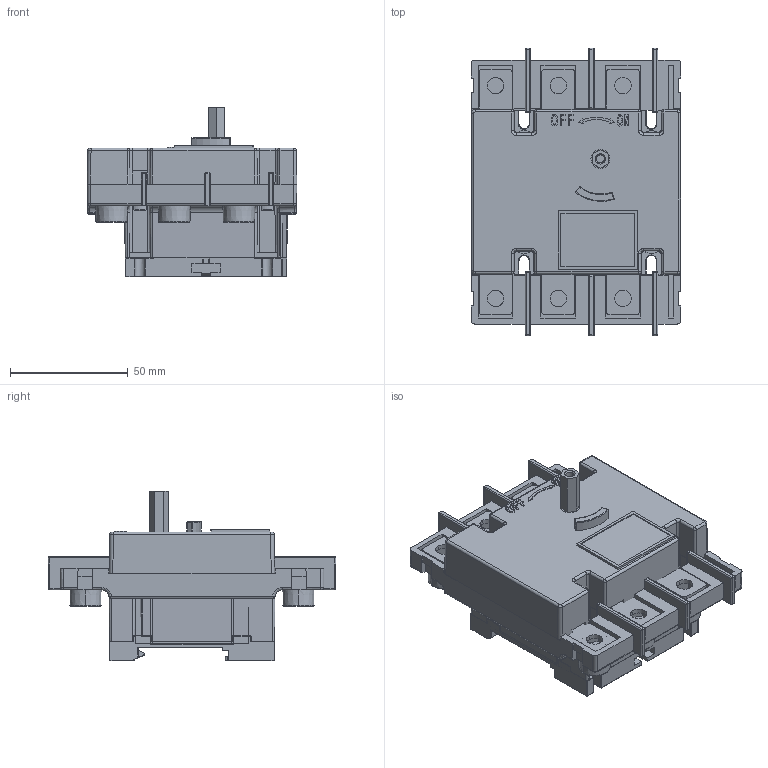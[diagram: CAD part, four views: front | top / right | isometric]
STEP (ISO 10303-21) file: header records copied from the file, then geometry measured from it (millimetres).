
FILE_DESCRIPTION((''),'2;1');
FILE_NAME('ASM0033_ASM','2020-10-07T',('zhuanghy'),(''),'PRO/ENGINEER BY PARAMETRIC TECHNOLOGY CORPORATION, 2008380','PRO/ENGINEER BY PARAMETRIC TECHNOLOGY CORPORATION, 2008380','');
FILE_SCHEMA(('CONFIG_CONTROL_DESIGN'));
Length unit declared in the file: millimetre
Products named in the file (10): PRT0081; PRT0082; ASM0037_ASM; PRT0083; PRT0084; PRT0085; ASM0036_ASM; ASM0035_ASM; ASM0034_ASM; ASM0033_ASM
Assembly tree (14 placements, depth 6):
  ASM0033_ASM
    ASM0034_ASM
      ASM0035_ASM
        ASM0036_ASM
          ASM0037_ASM
            PRT0081
            PRT0082
          PRT0083
          PRT0084  x6
          PRT0085
Bounding box: 88.97 x 122.14 x 72 mm (x, y, z)
Volume: 274132.9 mm3; surface area: 120142 mm2
Topology: 10 solids, 11 shells, 1954 faces, 5376 edges, 3381 vertices
Faces by surface type: plane 1148, cylinder 547, sphere 104, torus 80, bspline 46, cone 29
Entity records: 59388 total; most frequent: CARTESIAN_POINT 14219, ORIENTED_EDGE 9692, DIRECTION 8947, EDGE_CURVE 4847, VECTOR 3373, LINE 3373, VERTEX_POINT 3091, AXIS2_PLACEMENT_3D 2787
